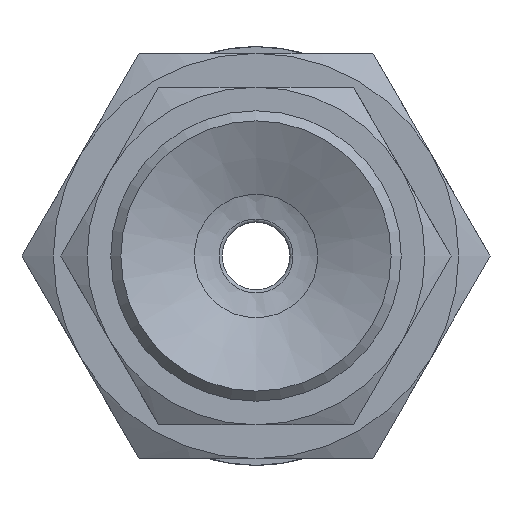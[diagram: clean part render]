
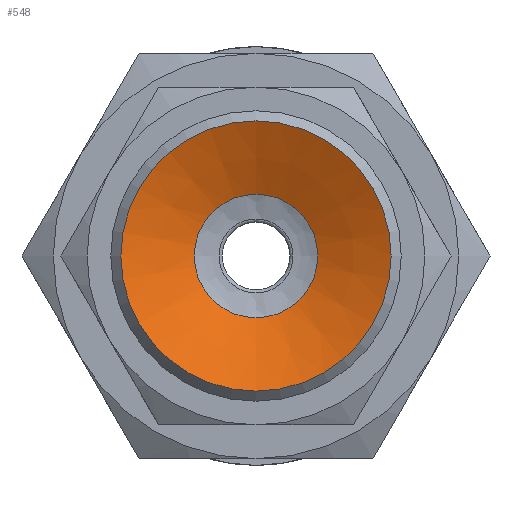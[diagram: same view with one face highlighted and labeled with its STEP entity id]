
A CAD part, front view. The second image highlights one B-rep face of the part: STEP entity #548.
In plain terms, the highlighted conical face has half-angle 65 degrees and reference radius 1.427 mm.
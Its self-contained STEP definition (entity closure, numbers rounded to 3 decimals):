
#548=ADVANCED_FACE('',(#834,#835),#836,.F.);
#834=FACE_BOUND('',#1207,.T.);
#835=FACE_OUTER_BOUND('',#1208,.T.);
#836=CONICAL_SURFACE('',#1209,1.427,1.134);
#1207=EDGE_LOOP('',(#2220));
#1208=EDGE_LOOP('',(#2221));
#1209=AXIS2_PLACEMENT_3D('',#2222,#2223,#2224);
#2220=ORIENTED_EDGE('',*,*,#2736,.T.);
#2221=ORIENTED_EDGE('',*,*,#2723,.T.);
#2222=CARTESIAN_POINT('',(0.0,7.096,0.));
#2223=DIRECTION('',(-0.0,-1.0,0.));
#2224=DIRECTION('',(0.0,0.,-1.0));
#2723=EDGE_CURVE('',#3096,#3096,#3097,.T.);
#2736=EDGE_CURVE('',#3122,#3122,#3123,.T.);
#3096=VERTEX_POINT('',#3890);
#3097=CIRCLE('',#3891,4.0);
#3122=VERTEX_POINT('',#3916);
#3123=CIRCLE('',#3917,1.828);
#3890=CARTESIAN_POINT('',(0.0,5.896,-4.0));
#3891=AXIS2_PLACEMENT_3D('',#4610,#4611,#4612);
#3916=CARTESIAN_POINT('',(0.0,6.909,-1.828));
#3917=AXIS2_PLACEMENT_3D('',#4649,#4650,#4651);
#4610=CARTESIAN_POINT('',(0.0,5.896,0.0));
#4611=DIRECTION('',(0.0,-1.0,0.));
#4612=DIRECTION('',(0.0,0.,-1.0));
#4649=CARTESIAN_POINT('',(0.0,6.909,0.0));
#4650=DIRECTION('',(0.0,1.0,0.));
#4651=DIRECTION('',(0.0,0.,-1.0));
